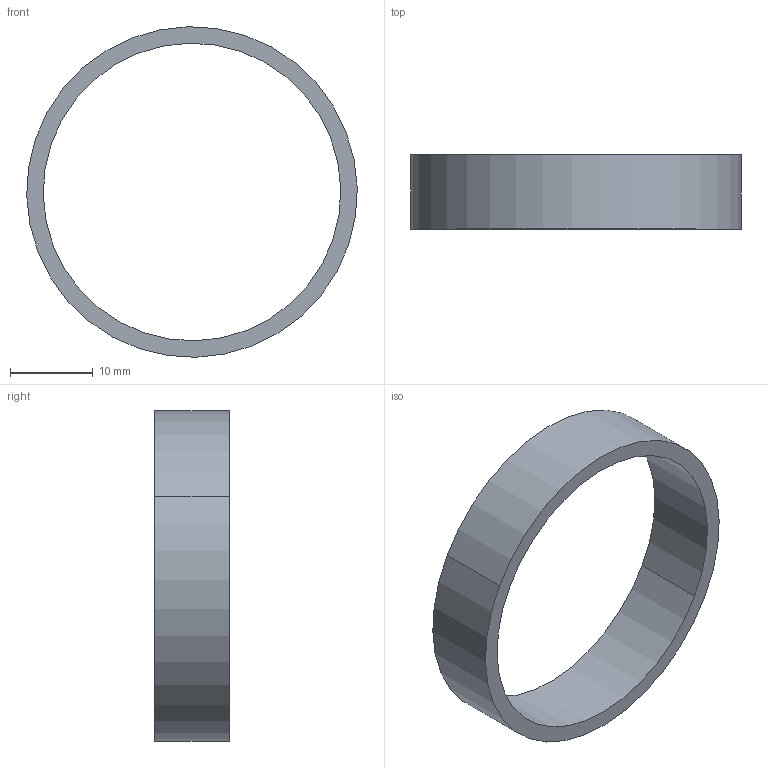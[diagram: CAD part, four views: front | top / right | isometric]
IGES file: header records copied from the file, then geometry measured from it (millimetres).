
Start section: START RECORD GO HERE.
Global section: file name: Symmetry of COUUSSINET ROUE CROCHET.igs; native system: IBM CATIA IGES - CATIA Version 5 Release 18 ; preprocessor: CATIA Version 5 Release 18 ; author: Propriétaire; organization: FUJITSU-79916BB; date: 20090111.191732; units: millimetre
Bounding box: 39.99 x 9 x 39.99 mm (x, y, z)
Surface area: 2626.4 mm2 (no closed solid volume)
Topology: 0 solids, 0 shells, 6 faces, 24 edges, 24 vertices
Faces by surface type: revolution 4, plane 2
